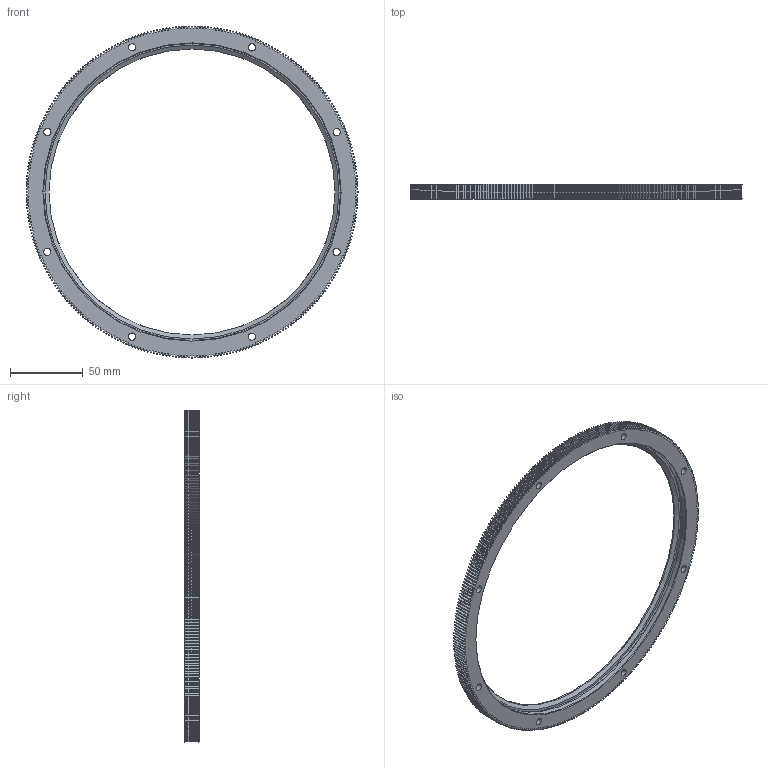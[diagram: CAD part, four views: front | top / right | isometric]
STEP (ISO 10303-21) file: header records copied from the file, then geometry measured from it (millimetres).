
FILE_DESCRIPTION(('STEP AP203'),'1');
FILE_NAME('RIV 228 R360 P.stp','2022-07-19T05:00:42',(' '),(' '),'Spatial InterOp 3D',' ',' ');
FILE_SCHEMA(('CONFIG_CONTROL_DESIGN'));
Length unit declared in the file: millimetre
Products named in the file (1): RIV 228 R360 P
Bounding box: 228.2 x 10 x 228.2 mm (x, y, z)
Volume: 79803.9 mm3; surface area: 40739 mm2
Topology: 1 solids, 1 shells, 1978 faces, 5902 edges, 3936 vertices
Faces by surface type: plane 1308, cylinder 342, cone 327, torus 1
Full cylindrical faces by diameter (mm): 5 x8, 8 x8, 204.2 x1, 205.4 x1
Entity records: 66636 total; most frequent: CARTESIAN_POINT 13737, ORIENTED_EDGE 11746, DIRECTION 10196, EDGE_CURVE 5873, LINE 4212, VECTOR 4212, VERTEX_POINT 3929, AXIS2_PLACEMENT_3D 2992
